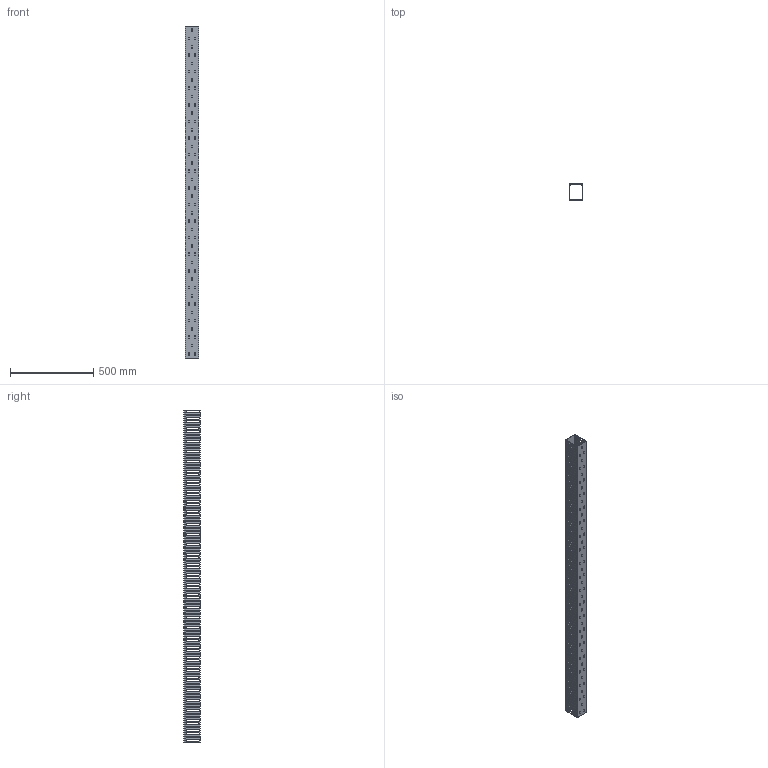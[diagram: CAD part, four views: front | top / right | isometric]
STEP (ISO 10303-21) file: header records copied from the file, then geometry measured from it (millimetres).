
FILE_DESCRIPTION (( 'STEP AP214' ), '1' );
FILE_NAME ('KD-810-20-H.STEP', '2020-02-19T01:48:49', ( '' ), ( '' ), 'SwSTEP 2.0', 'SolidWorks 2018', '' );
FILE_SCHEMA (( 'AUTOMOTIVE_DESIGN' ));
Length unit declared in the file: millimetre
Products named in the file (3): KD-810-20-H-body; KD-86-20-cover; KD-810-20-H
Assembly tree (2 placements, depth 2):
  KD-810-20-H
    KD-810-20-H-body
    KD-86-20-cover
Bounding box: 80 x 100.17 x 2000 mm (x, y, z)
Volume: 1056107.5 mm3; surface area: 1345832 mm2
Topology: 2 solids, 2 shells, 1963 faces, 5877 edges, 3918 vertices
Faces by surface type: cylinder 1017, plane 946
Entity records: 67875 total; most frequent: DIRECTION 11847, CARTESIAN_POINT 11763, ORIENTED_EDGE 11754, EDGE_CURVE 5877, AXIS2_PLACEMENT_3D 4002, VERTEX_POINT 3918, VECTOR 3843, LINE 3843
